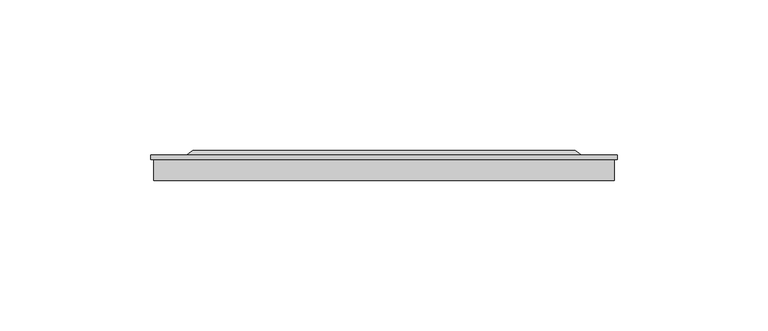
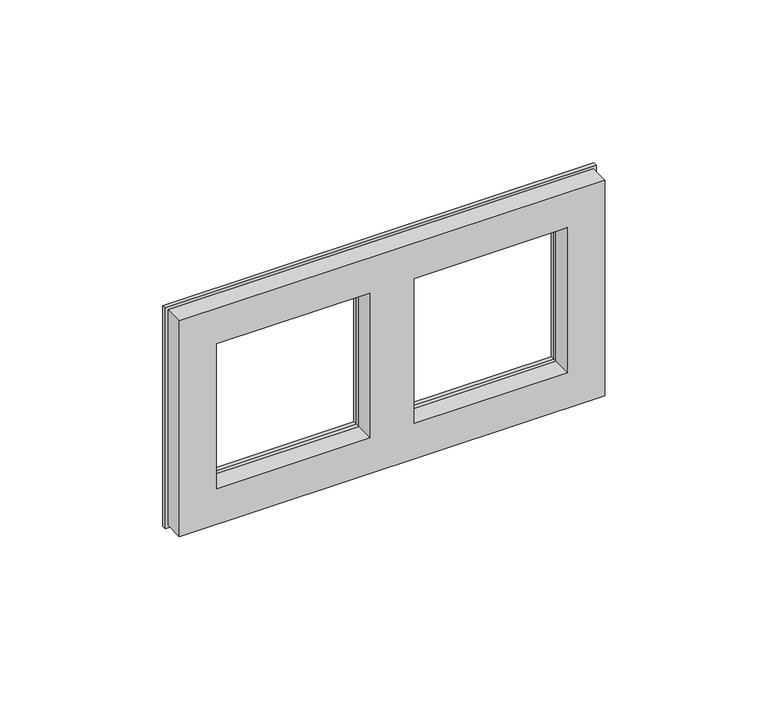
"""IFC4 building model written with IfcOpenShell, lengths in millimetres: proxy geometry, IEK_Brite_Рамка : x2_РУ-2-БрА алюм.."""

from ifc_helpers import new_model, si_unit, frame, origin, place, context, project, spatial, polyline, outline, extrude, faceted_brep, source, transform, mapped, element, save


def electrical_fixtures_da87cfc9(model_context):
    return source(origin(), model_context, "Body", "SolidModel", [
        extrude(outline(polyline([(41.0, -112.0), (-41.0, -112.0), (-41.0, 41.0), (41.0, 41.0), (41.0, -112.0)]), holes=[polyline([(-27.5, -27.5), (27.5, -27.5), (27.5, 27.5), (-27.5, 27.5), (-27.5, -27.5)]), polyline([(-27.5, -98.5), (27.5, -98.5), (27.5, -43.5), (-27.5, -43.5), (-27.5, -98.5)])]), frame((0.0, 0.0, 0.0), z_axis=(0.0, 1.0, 0.0), x_axis=(0.0, 0.0, 1.0)), (0.0, 0.0, 1.0), 7.0),
        extrude(outline(polyline([(42.0, -113.0), (-42.0, -113.0), (-42.0, 42.0), (42.0, 42.0), (42.0, -113.0)]), holes=[polyline([(-27.5, -27.5), (27.5, -27.5), (27.5, 27.5), (-27.5, 27.5), (-27.5, -27.5)]), polyline([(-27.5, -98.5), (27.5, -98.5), (27.5, -43.5), (-27.5, -43.5), (-27.5, -98.5)])]), frame((0.0, 7.0, 0.0), z_axis=(0.0, 1.0, 0.0), x_axis=(0.0, 0.0, 1.0)), (0.0, 0.0, 1.0), 1.5),
        faceted_brep([(-27.5, 10.0, 27.5), (-27.5, 8.5, 27.5), (-27.5, 8.5, -27.5), (-27.5, 10.0, -27.5), (27.5, 8.5, -27.5), (27.5, 10.0, -27.5), (27.5, 8.5, 27.5), (27.5, 10.0, 27.5), (-101.0, 8.5, 30.0), (-101.0, 8.5, -30.0), (30.0, 8.5, -30.0), (30.0, 8.5, 30.0), (-98.5, 8.5, -27.5), (-98.5, 8.5, 27.5), (-43.5, 8.5, 27.5), (-43.5, 8.5, -27.5), (-99.0, 10.0, 28.0), (28.0, 10.0, 28.0), (28.0, 10.0, -28.0), (-99.0, 10.0, -28.0), (-98.5, 10.0, 27.5), (-98.5, 10.0, -27.5), (-43.5, 10.0, -27.5), (-43.5, 10.0, 27.5)], [[[0, 1, 2, 3]], [[3, 2, 4, 5]], [[5, 4, 6, 7]], [[1, 0, 7, 6]], [[8, 9, 10, 11], [2, 1, 6, 4], [12, 13, 14, 15]], [[16, 17, 18, 19], [0, 3, 5, 7], [20, 21, 22, 23]], [[9, 8, 16, 19]], [[10, 9, 19, 18]], [[11, 10, 18, 17]], [[8, 11, 17, 16]], [[20, 13, 12, 21]], [[21, 12, 15, 22]], [[22, 15, 14, 23]], [[13, 20, 23, 14]]]),
    ])


if __name__ == "__main__":
    model = new_model("IFC4")
    model_context = context("Model", 3, world=origin())
    ifc_project = project(units=[si_unit("LENGTHUNIT", "METRE", prefix="MILLI")], contexts=[model_context])
    site = spatial("IfcSite", under=ifc_project)
    building = spatial("IfcBuilding", under=site)
    placement = place(None, origin())
    electrical_fixtures_shape = electrical_fixtures_da87cfc9(model_context)
    element("IfcBuildingElementProxy", 1, Name="IEK_Brite_Рамка : x2_РУ-2-БрА алюм.", ObjectType="IEK_Brite_Рамка : x2_РУ-2-БрА алюм.", at=placement, inside=building, context=model_context, shape_type="MappedRepresentation", body=[
        mapped(electrical_fixtures_shape, transform((0.0, 0.0, 0.0), x_axis=(1.0, 0.0, 0.0), y_axis=(0.0, 1.0, 0.0), z_axis=(0.0, 0.0, 1.0))),
    ])
    save(model, "model.ifc")
